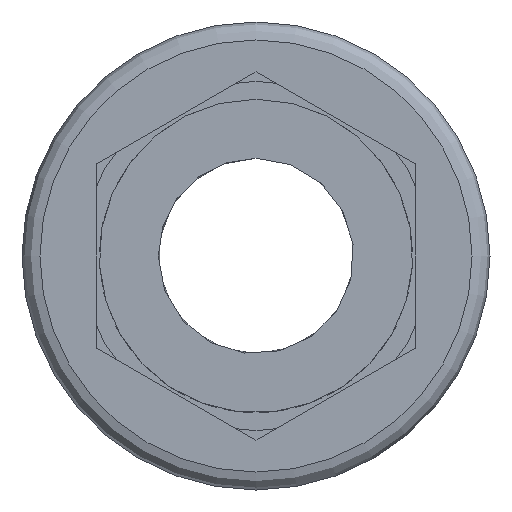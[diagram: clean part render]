
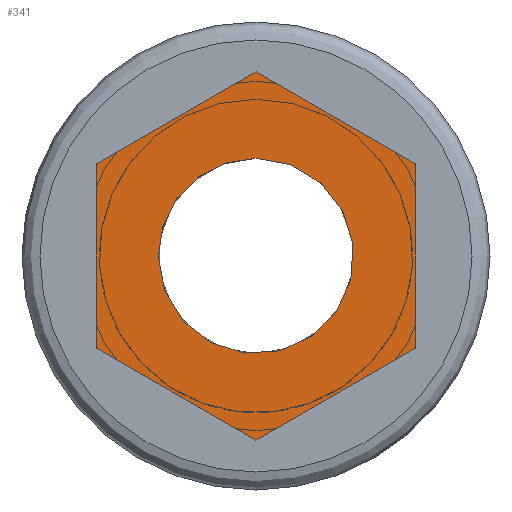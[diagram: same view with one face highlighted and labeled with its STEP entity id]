
A CAD part, front view. The second image highlights one B-rep face of the part: STEP entity #341.
In plain terms, the highlighted planar face has unit normal (0, -1, 0).
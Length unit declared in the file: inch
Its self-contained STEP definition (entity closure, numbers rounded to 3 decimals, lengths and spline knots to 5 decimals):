
#19=FACE_BOUND('',#120,.T.);
#30=PLANE('',#392);
#42=LINE('',#575,#65);
#45=LINE('',#580,#68);
#47=LINE('',#584,#70);
#49=LINE('',#588,#72);
#51=LINE('',#592,#74);
#52=LINE('',#594,#75);
#65=VECTOR('',#470,0.3937);
#68=VECTOR('',#475,0.3937);
#70=VECTOR('',#479,0.3937);
#72=VECTOR('',#483,0.3937);
#74=VECTOR('',#487,0.3937);
#75=VECTOR('',#490,0.3937);
#97=FACE_OUTER_BOUND('',#119,.T.);
#119=EDGE_LOOP('',(#299,#300,#301,#302,#303,#304));
#120=EDGE_LOOP('',(#305,#306));
#143=CIRCLE('',#393,0.038);
#144=CIRCLE('',#394,0.038);
#170=VERTEX_POINT('',#572);
#171=VERTEX_POINT('',#574);
#172=VERTEX_POINT('',#578);
#173=VERTEX_POINT('',#582);
#174=VERTEX_POINT('',#586);
#175=VERTEX_POINT('',#590);
#176=VERTEX_POINT('',#596);
#177=VERTEX_POINT('',#597);
#210=EDGE_CURVE('',#170,#171,#42,.T.);
#213=EDGE_CURVE('',#172,#170,#45,.T.);
#215=EDGE_CURVE('',#173,#172,#47,.T.);
#217=EDGE_CURVE('',#174,#173,#49,.T.);
#219=EDGE_CURVE('',#175,#174,#51,.T.);
#220=EDGE_CURVE('',#171,#175,#52,.T.);
#221=EDGE_CURVE('',#176,#177,#143,.T.);
#222=EDGE_CURVE('',#177,#176,#144,.T.);
#299=ORIENTED_EDGE('',*,*,#220,.F.);
#300=ORIENTED_EDGE('',*,*,#210,.F.);
#301=ORIENTED_EDGE('',*,*,#213,.F.);
#302=ORIENTED_EDGE('',*,*,#215,.F.);
#303=ORIENTED_EDGE('',*,*,#217,.F.);
#304=ORIENTED_EDGE('',*,*,#219,.F.);
#305=ORIENTED_EDGE('',*,*,#221,.F.);
#306=ORIENTED_EDGE('',*,*,#222,.F.);
#341=ADVANCED_FACE('',(#97,#19),#30,.T.);
#392=AXIS2_PLACEMENT_3D('',#595,#491,#492);
#393=AXIS2_PLACEMENT_3D('',#598,#493,#494);
#394=AXIS2_PLACEMENT_3D('',#599,#495,#496);
#470=DIRECTION('',(0.866,0.,-0.5));
#475=DIRECTION('',(0.866,0.,0.5));
#479=DIRECTION('',(0.,0.,1.));
#483=DIRECTION('',(-0.866,0.,0.5));
#487=DIRECTION('',(-0.866,0.,-0.5));
#490=DIRECTION('',(0.,0.,-1.));
#491=DIRECTION('center_axis',(0.,-1.,0.));
#492=DIRECTION('ref_axis',(1.,0.,0.));
#493=DIRECTION('center_axis',(0.,-1.,0.));
#494=DIRECTION('ref_axis',(0.,0.,-1.));
#495=DIRECTION('center_axis',(0.,-1.,0.));
#496=DIRECTION('ref_axis',(0.,0.,-1.));
#572=CARTESIAN_POINT('',(0.,0.14,0.07159));
#574=CARTESIAN_POINT('',(0.062,0.14,0.0358));
#575=CARTESIAN_POINT('',(0.062,0.14,0.0358));
#578=CARTESIAN_POINT('',(-0.062,0.14,0.0358));
#580=CARTESIAN_POINT('',(0.,0.14,0.07159));
#582=CARTESIAN_POINT('',(-0.062,0.14,-0.0358));
#584=CARTESIAN_POINT('',(-0.062,0.14,0.0358));
#586=CARTESIAN_POINT('',(0.,0.14,-0.07159));
#588=CARTESIAN_POINT('',(-0.062,0.14,-0.0358));
#590=CARTESIAN_POINT('',(0.062,0.14,-0.0358));
#592=CARTESIAN_POINT('',(0.,0.14,-0.07159));
#594=CARTESIAN_POINT('',(0.062,0.14,-0.0358));
#595=CARTESIAN_POINT('Origin',(0.,0.14,0.));
#596=CARTESIAN_POINT('',(-0.038,0.14,0.));
#597=CARTESIAN_POINT('',(0.,0.14,0.038));
#598=CARTESIAN_POINT('Origin',(0.,0.14,0.));
#599=CARTESIAN_POINT('Origin',(0.,0.14,0.));
